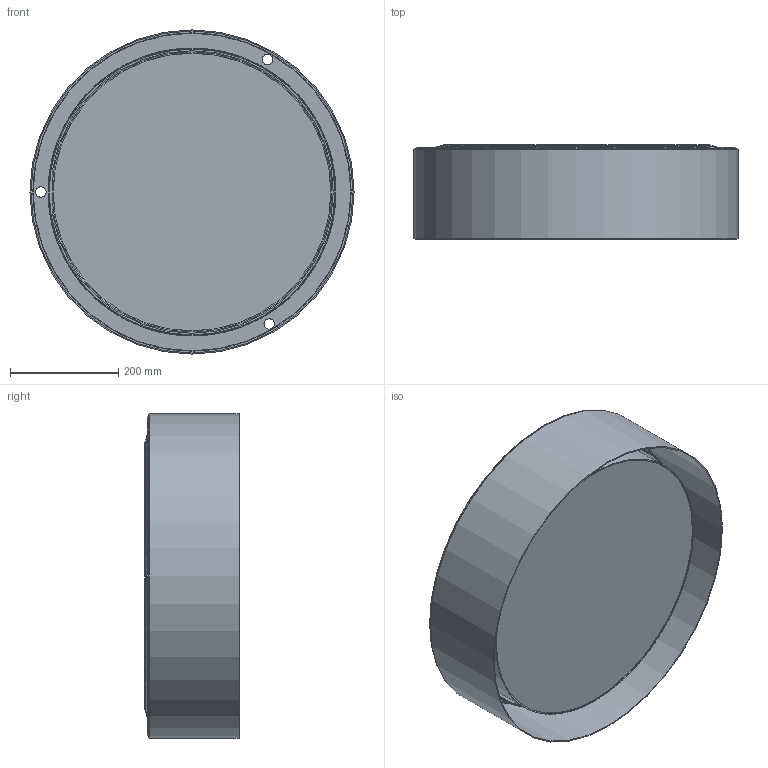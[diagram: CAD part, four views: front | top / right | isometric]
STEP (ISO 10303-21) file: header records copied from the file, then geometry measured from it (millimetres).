
FILE_DESCRIPTION(/* description */ (''),/* implementation_level */ '2;1');
FILE_NAME(/* name */ 'C:/Users/Jakub Wieczorkowski/Desktop/STEP/TERCINO_6123 v3 v2 v1.step',/* time_stamp */ '2022-02-22T08:24:53+01:00',/* author */ (''),/* organization */ (''),/* preprocessor_version */ 'ST-DEVELOPER v18.1',/* originating_system */ 'Autodesk Translation Framework v10.13.0.1454',/* authorisation */ '');
FILE_SCHEMA (('AUTOMOTIVE_DESIGN { 1 0 10303 214 3 1 1 }'));
Length unit declared in the file: millimetre
Products named in the file (3): TERCINO_6123 v3 v2; MOCOWANIE_PLAFON v2; POKRYWA_600 v5
Assembly tree (2 placements, depth 2):
  TERCINO_6123 v3 v2
    MOCOWANIE_PLAFON v2
    POKRYWA_600 v5
Bounding box: 600 x 174 x 600 mm (x, y, z)
Volume: 1883874.8 mm3; surface area: 2463167.3 mm2
Topology: 39 solids, 39 shells, 387 faces, 883 edges, 571 vertices
Faces by surface type: plane 276, cylinder 61, bspline 40, torus 10
Full cylindrical faces by diameter (mm): 14.819 x8, 18 x1, 19.404 x3, 19.8 x1, 20.058 x4, 28.544 x4, 30 x4, 40 x4, 45 x4, 96 x1, 100 x1, 514.086 x2, 517.65 x1, 529.234 x1, 530.125 x1, 531.907 x1, 532.798 x1, 588.038 x1, 589.882 x1, 591.822 x1, 596 x1, 598.998 x1, 600 x1
Entity records: 12838 total; most frequent: CARTESIAN_POINT 3876, DIRECTION 1824, ORIENTED_EDGE 1766, EDGE_CURVE 883, LINE 646, VECTOR 646, AXIS2_PLACEMENT_3D 589, VERTEX_POINT 571
